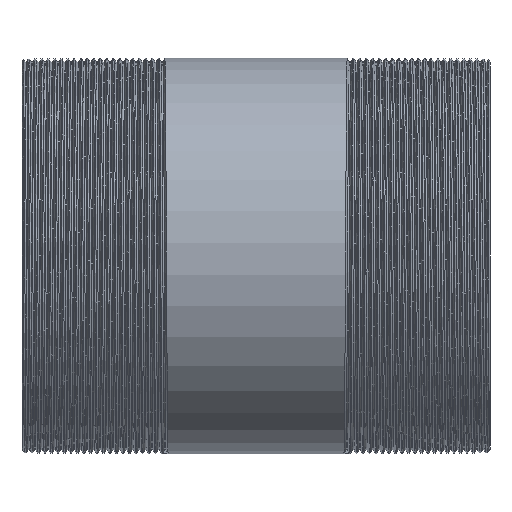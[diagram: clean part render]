
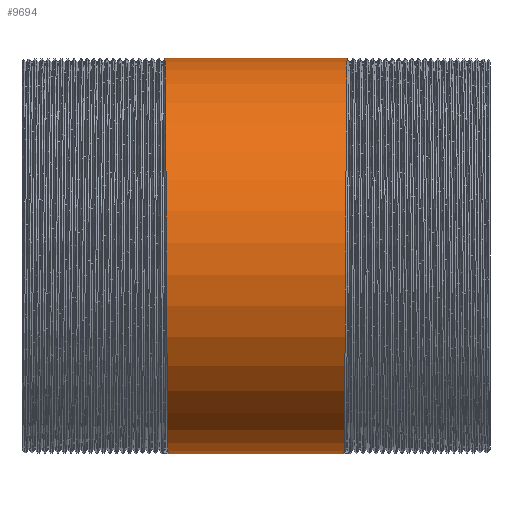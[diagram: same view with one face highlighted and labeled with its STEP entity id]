
A CAD part, front view. The second image highlights one B-rep face of the part: STEP entity #9694.
In plain terms, the highlighted cylindrical face has radius 38.05 mm (diameter 76.1 mm), a partial arc.
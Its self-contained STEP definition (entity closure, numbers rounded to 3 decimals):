
#543 = CARTESIAN_POINT ( 'NONE',  ( 16.906, 0., -38.05 ) ) ;
#702 = AXIS2_PLACEMENT_3D ( 'NONE', #16663, #12411, #2767 ) ;
#962 = VECTOR ( 'NONE', #3762, 1000. ) ;
#1384 = ORIENTED_EDGE ( 'NONE', *, *, #4851, .T. ) ;
#1395 = CARTESIAN_POINT ( 'NONE',  ( -16.906, 0., -38.05 ) ) ;
#1407 = VECTOR ( 'NONE', #11965, 1000. ) ;
#2767 = DIRECTION ( 'NONE',  ( 0., 0., 1. ) ) ;
#2863 = FACE_OUTER_BOUND ( 'NONE', #16964, .T. ) ;
#3292 = CARTESIAN_POINT ( 'NONE',  ( 17.453, -15.761, 38.05 ) ) ;
#3397 = CARTESIAN_POINT ( 'NONE',  ( 16.984, -15.761, -38.05 ) ) ;
#3762 = DIRECTION ( 'NONE',  ( -1., 0., 0. ) ) ;
#3918 = CARTESIAN_POINT ( 'NONE',  ( -16.984, -15.761, -38.05 ) ) ;
#4018 = CARTESIAN_POINT ( 'NONE',  ( -17.453, -15.761, 38.05 ) ) ;
#4851 = EDGE_CURVE ( 'NONE', #12074, #13521, #19070, .T. ) ;
#5810 = ORIENTED_EDGE ( 'NONE', *, *, #6217, .T. ) ;
#6217 = EDGE_CURVE ( 'NONE', #8201, #12074, #11842, .T. ) ;
#6542 = CARTESIAN_POINT ( 'NONE',  ( 17.531, 0., 38.05 ) ) ;
#7297 = LINE ( 'NONE', #13485, #1407 ) ;
#8107 = CARTESIAN_POINT ( 'NONE',  ( -17.531, 0., 38.05 ) ) ;
#8176 = ORIENTED_EDGE ( 'NONE', *, *, #15395, .F. ) ;
#8201 = VERTEX_POINT ( 'NONE', #15977 ) ;
#9694 = ADVANCED_FACE ( 'NONE', ( #2863 ), #13821, .T. ) ;
#10109 = CARTESIAN_POINT ( 'NONE',  ( -17.141, -38.05, -15.761 ) ) ;
#11207 = CARTESIAN_POINT ( 'NONE',  ( 17.297, -38.05, 15.761 ) ) ;
#11842 =( BOUNDED_CURVE ( )  B_SPLINE_CURVE ( 2, ( #543, #3397, #18902, #19000, #14545, #11207, #12628, #3292, #6542 ),
 .UNSPECIFIED., .F., .T. ) 
 B_SPLINE_CURVE_WITH_KNOTS ( ( 3, 2, 2, 2, 3 ),
 ( 0., 0.005, 0.011, 0.016, 0.022 ),
 .UNSPECIFIED. ) 
 CURVE ( )  GEOMETRIC_REPRESENTATION_ITEM ( )  RATIONAL_B_SPLINE_CURVE ( ( 1., 0.924, 1., 0.924, 1., 0.924, 1., 0.924, 1. ) ) 
 REPRESENTATION_ITEM ( '' )  );
#11965 = DIRECTION ( 'NONE',  ( -1., 0., 0. ) ) ;
#12074 = VERTEX_POINT ( 'NONE', #17500 ) ;
#12411 = DIRECTION ( 'NONE',  ( -1., 0., 0. ) ) ;
#12628 = CARTESIAN_POINT ( 'NONE',  ( 17.375, -26.905, 26.905 ) ) ;
#13268 =( BOUNDED_CURVE ( )  B_SPLINE_CURVE ( 2, ( #19322, #3918, #16584, #10109, #14671, #19420, #17905, #4018, #19714 ),
 .UNSPECIFIED., .F., .T. ) 
 B_SPLINE_CURVE_WITH_KNOTS ( ( 3, 2, 2, 2, 3 ),
 ( 0., 0.005, 0.011, 0.016, 0.022 ),
 .UNSPECIFIED. ) 
 CURVE ( )  GEOMETRIC_REPRESENTATION_ITEM ( )  RATIONAL_B_SPLINE_CURVE ( ( 1., 0.924, 1., 0.924, 1., 0.924, 1., 0.924, 1. ) ) 
 REPRESENTATION_ITEM ( '' )  );
#13367 = VERTEX_POINT ( 'NONE', #1395 ) ;
#13485 = CARTESIAN_POINT ( 'NONE',  ( -149.494, 0., -38.05 ) ) ;
#13521 = VERTEX_POINT ( 'NONE', #8107 ) ;
#13821 = CYLINDRICAL_SURFACE ( 'NONE', #702, 38.05 ) ;
#14545 = CARTESIAN_POINT ( 'NONE',  ( 17.219, -38.05, 0. ) ) ;
#14671 = CARTESIAN_POINT ( 'NONE',  ( -17.219, -38.05, 0. ) ) ;
#15389 = ORIENTED_EDGE ( 'NONE', *, *, #18962, .F. ) ;
#15395 = EDGE_CURVE ( 'NONE', #13367, #13521, #13268, .T. ) ;
#15977 = CARTESIAN_POINT ( 'NONE',  ( 16.906, 0., -38.05 ) ) ;
#16584 = CARTESIAN_POINT ( 'NONE',  ( -17.063, -26.905, -26.905 ) ) ;
#16663 = CARTESIAN_POINT ( 'NONE',  ( -149.494, 0., 0. ) ) ;
#16964 = EDGE_LOOP ( 'NONE', ( #15389, #5810, #1384, #8176 ) ) ;
#17500 = CARTESIAN_POINT ( 'NONE',  ( 17.531, 0., 38.05 ) ) ;
#17646 = CARTESIAN_POINT ( 'NONE',  ( -149.494, 0., 38.05 ) ) ;
#17905 = CARTESIAN_POINT ( 'NONE',  ( -17.375, -26.905, 26.905 ) ) ;
#18902 = CARTESIAN_POINT ( 'NONE',  ( 17.063, -26.905, -26.905 ) ) ;
#18962 = EDGE_CURVE ( 'NONE', #8201, #13367, #7297, .T. ) ;
#19000 = CARTESIAN_POINT ( 'NONE',  ( 17.141, -38.05, -15.761 ) ) ;
#19070 = LINE ( 'NONE', #17646, #962 ) ;
#19322 = CARTESIAN_POINT ( 'NONE',  ( -16.906, 0., -38.05 ) ) ;
#19420 = CARTESIAN_POINT ( 'NONE',  ( -17.297, -38.05, 15.761 ) ) ;
#19714 = CARTESIAN_POINT ( 'NONE',  ( -17.531, 0., 38.05 ) ) ;
